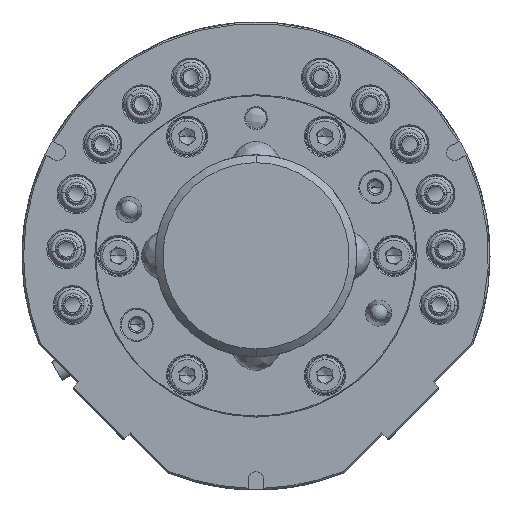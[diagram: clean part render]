
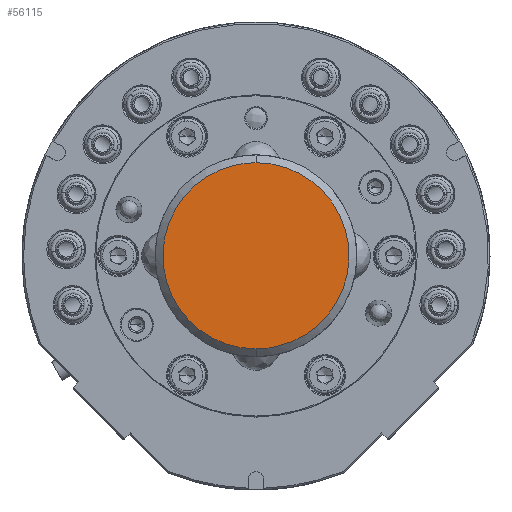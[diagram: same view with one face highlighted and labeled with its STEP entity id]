
A CAD part, top view. The second image highlights one B-rep face of the part: STEP entity #56115.
In plain terms, the highlighted planar face has unit normal (0, 0, 1).
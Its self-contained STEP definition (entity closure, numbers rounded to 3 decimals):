
#927 = CARTESIAN_POINT ( 'NONE',  ( 2.343, 17.785, 13.5 ) ) ;
#1162 = CARTESIAN_POINT ( 'NONE',  ( 17.785, 2.343, 13.5 ) ) ;
#1392 = CARTESIAN_POINT ( 'NONE',  ( 7.932, -16.089, 13.5 ) ) ;
#1664 = CARTESIAN_POINT ( 'NONE',  ( -1.172, -17.9, 13.5 ) ) ;
#1893 = CARTESIAN_POINT ( 'NONE',  ( -14.232, -10.919, 13.5 ) ) ;
#2121 = CARTESIAN_POINT ( 'NONE',  ( -14.232, 10.919, 13.5 ) ) ;
#4891 = AXIS2_PLACEMENT_3D ( 'NONE', #57257, #10642, #47086 ) ;
#6268 = CARTESIAN_POINT ( 'NONE',  ( 5.768, 16.986, 13.5 ) ) ;
#6494 = CARTESIAN_POINT ( 'NONE',  ( 17.9, -1.172, 13.5 ) ) ;
#6720 = CARTESIAN_POINT ( 'NONE',  ( 4.641, -17.327, 13.5 ) ) ;
#6949 = B_SPLINE_CURVE_WITH_KNOTS ( 'NONE', 3,
 ( #63085, #26999, #927, #37443, #6268, #42692, #11437, #47882, #16700, #53083, #22029, #58238, #27226, #63313, #32425, #1162, #37668, #6494, #42922, #11661, #48111, #16929, #53313, #22263, #58460, #27446, #63523, #32665, #1392, #37897, #6720, #43143, #11888, #48337 ),
 .UNSPECIFIED., .F., .F.,
 ( 4, 2, 2, 2, 2, 2, 2, 2, 2, 2, 2, 2, 2, 2, 2, 2, 4 ),
 ( 0.25, 0.281, 0.313, 0.344, 0.375, 0.406, 0.438, 0.469, 0.5, 0.531, 0.563, 0.594, 0.625, 0.656, 0.688, 0.719, 0.75 ),
 .UNSPECIFIED. ) ;
#7197 = CARTESIAN_POINT ( 'NONE',  ( -16.089, -7.932, 13.5 ) ) ;
#7432 = CARTESIAN_POINT ( 'NONE',  ( -11.829, 13.486, 13.5 ) ) ;
#10642 = DIRECTION ( 'NONE',  ( 0., 0., -1. ) ) ;
#11437 = CARTESIAN_POINT ( 'NONE',  ( 8.971, 15.534, 13.5 ) ) ;
#11661 = CARTESIAN_POINT ( 'NONE',  ( 17.327, -4.641, 13.5 ) ) ;
#11888 = CARTESIAN_POINT ( 'NONE',  ( 1.172, -17.9, 13.5 ) ) ;
#12355 = CARTESIAN_POINT ( 'NONE',  ( -17.327, -4.641, 13.5 ) ) ;
#12579 = CARTESIAN_POINT ( 'NONE',  ( -8.971, 15.534, 13.5 ) ) ;
#16700 = CARTESIAN_POINT ( 'NONE',  ( 11.829, 13.486, 13.5 ) ) ;
#16929 = CARTESIAN_POINT ( 'NONE',  ( 16.089, -7.932, 13.5 ) ) ;
#16993 = VERTEX_POINT ( 'NONE', #27776 ) ;
#17413 = CARTESIAN_POINT ( 'NONE',  ( -4.641, -17.327, 13.5 ) ) ;
#17651 = CARTESIAN_POINT ( 'NONE',  ( -17.9, -1.172, 13.5 ) ) ;
#17886 = CARTESIAN_POINT ( 'NONE',  ( -5.768, 16.986, 13.5 ) ) ;
#22029 = CARTESIAN_POINT ( 'NONE',  ( 14.232, 10.919, 13.5 ) ) ;
#22263 = CARTESIAN_POINT ( 'NONE',  ( 14.232, -10.919, 13.5 ) ) ;
#22742 = CARTESIAN_POINT ( 'NONE',  ( -7.932, -16.089, 13.5 ) ) ;
#22967 = CARTESIAN_POINT ( 'NONE',  ( -17.785, 2.343, 13.5 ) ) ;
#23129 = EDGE_CURVE ( 'NONE', #54497, #16993, #6949, .T. ) ;
#23187 = CARTESIAN_POINT ( 'NONE',  ( -2.343, 17.785, 13.5 ) ) ;
#26079 = B_SPLINE_CURVE_WITH_KNOTS ( 'NONE', 3,
 ( #63774, #1664, #48589, #17413, #53786, #22742, #58926, #27925, #63993, #33142, #1893, #38395, #7197, #43629, #12355, #48824, #17651, #54012, #22967, #59148, #28148, #64228, #33365, #2121, #38607, #7432, #43838, #12579, #49036, #17886, #54228, #23187, #59363, #28370 ),
 .UNSPECIFIED., .F., .F.,
 ( 4, 2, 2, 2, 2, 2, 2, 2, 2, 2, 2, 2, 2, 2, 2, 2, 4 ),
 ( 0.75, 0.781, 0.812, 0.844, 0.875, 0.906, 0.937, 0.969, 1., 1.031, 1.063, 1.094, 1.125, 1.156, 1.188, 1.219, 1.25 ),
 .UNSPECIFIED. ) ;
#26214 = PLANE ( 'NONE',  #4891 ) ;
#26999 = CARTESIAN_POINT ( 'NONE',  ( 1.172, 17.9, 13.5 ) ) ;
#27226 = CARTESIAN_POINT ( 'NONE',  ( 16.089, 7.932, 13.5 ) ) ;
#27446 = CARTESIAN_POINT ( 'NONE',  ( 11.829, -13.486, 13.5 ) ) ;
#27776 = CARTESIAN_POINT ( 'NONE',  ( 0., -17.9, 13.5 ) ) ;
#27925 = CARTESIAN_POINT ( 'NONE',  ( -10.919, -14.232, 13.5 ) ) ;
#28148 = CARTESIAN_POINT ( 'NONE',  ( -16.986, 5.768, 13.5 ) ) ;
#28370 = CARTESIAN_POINT ( 'NONE',  ( 0., 17.9, 13.5 ) ) ;
#32425 = CARTESIAN_POINT ( 'NONE',  ( 17.327, 4.641, 13.5 ) ) ;
#32665 = CARTESIAN_POINT ( 'NONE',  ( 8.971, -15.534, 13.5 ) ) ;
#33142 = CARTESIAN_POINT ( 'NONE',  ( -13.486, -11.829, 13.5 ) ) ;
#33365 = CARTESIAN_POINT ( 'NONE',  ( -15.534, 8.971, 13.5 ) ) ;
#37443 = CARTESIAN_POINT ( 'NONE',  ( 4.641, 17.327, 13.5 ) ) ;
#37668 = CARTESIAN_POINT ( 'NONE',  ( 17.9, 1.172, 13.5 ) ) ;
#37897 = CARTESIAN_POINT ( 'NONE',  ( 5.768, -16.986, 13.5 ) ) ;
#38395 = CARTESIAN_POINT ( 'NONE',  ( -15.534, -8.971, 13.5 ) ) ;
#38596 = CARTESIAN_POINT ( 'NONE',  ( 0., 17.9, 13.5 ) ) ;
#38607 = CARTESIAN_POINT ( 'NONE',  ( -13.486, 11.829, 13.5 ) ) ;
#41507 = FACE_OUTER_BOUND ( 'NONE', #64185, .T. ) ;
#42692 = CARTESIAN_POINT ( 'NONE',  ( 7.932, 16.089, 13.5 ) ) ;
#42922 = CARTESIAN_POINT ( 'NONE',  ( 17.785, -2.343, 13.5 ) ) ;
#43143 = CARTESIAN_POINT ( 'NONE',  ( 2.343, -17.785, 13.5 ) ) ;
#43629 = CARTESIAN_POINT ( 'NONE',  ( -16.986, -5.768, 13.5 ) ) ;
#43838 = CARTESIAN_POINT ( 'NONE',  ( -10.919, 14.232, 13.5 ) ) ;
#47086 = DIRECTION ( 'NONE',  ( -1., 0., 0. ) ) ;
#47882 = CARTESIAN_POINT ( 'NONE',  ( 10.919, 14.232, 13.5 ) ) ;
#48111 = CARTESIAN_POINT ( 'NONE',  ( 16.986, -5.768, 13.5 ) ) ;
#48337 = CARTESIAN_POINT ( 'NONE',  ( 0., -17.9, 13.5 ) ) ;
#48589 = CARTESIAN_POINT ( 'NONE',  ( -2.343, -17.785, 13.5 ) ) ;
#48824 = CARTESIAN_POINT ( 'NONE',  ( -17.785, -2.343, 13.5 ) ) ;
#49036 = CARTESIAN_POINT ( 'NONE',  ( -7.932, 16.089, 13.5 ) ) ;
#52913 = ORIENTED_EDGE ( 'NONE', *, *, #23129, .F. ) ;
#53083 = CARTESIAN_POINT ( 'NONE',  ( 13.486, 11.829, 13.5 ) ) ;
#53313 = CARTESIAN_POINT ( 'NONE',  ( 15.534, -8.971, 13.5 ) ) ;
#53401 = EDGE_CURVE ( 'NONE', #16993, #54497, #26079, .T. ) ;
#53786 = CARTESIAN_POINT ( 'NONE',  ( -5.768, -16.986, 13.5 ) ) ;
#54012 = CARTESIAN_POINT ( 'NONE',  ( -17.9, 1.172, 13.5 ) ) ;
#54228 = CARTESIAN_POINT ( 'NONE',  ( -4.641, 17.327, 13.5 ) ) ;
#54497 = VERTEX_POINT ( 'NONE', #38596 ) ;
#56115 = ADVANCED_FACE ( 'NONE', ( #41507 ), #26214, .F. ) ;
#57257 = CARTESIAN_POINT ( 'NONE',  ( 0., 0., 13.5 ) ) ;
#58238 = CARTESIAN_POINT ( 'NONE',  ( 15.534, 8.971, 13.5 ) ) ;
#58460 = CARTESIAN_POINT ( 'NONE',  ( 13.486, -11.829, 13.5 ) ) ;
#58926 = CARTESIAN_POINT ( 'NONE',  ( -8.971, -15.534, 13.5 ) ) ;
#59148 = CARTESIAN_POINT ( 'NONE',  ( -17.327, 4.641, 13.5 ) ) ;
#59363 = CARTESIAN_POINT ( 'NONE',  ( -1.172, 17.9, 13.5 ) ) ;
#61684 = ORIENTED_EDGE ( 'NONE', *, *, #53401, .F. ) ;
#63085 = CARTESIAN_POINT ( 'NONE',  ( 0., 17.9, 13.5 ) ) ;
#63313 = CARTESIAN_POINT ( 'NONE',  ( 16.986, 5.768, 13.5 ) ) ;
#63523 = CARTESIAN_POINT ( 'NONE',  ( 10.919, -14.232, 13.5 ) ) ;
#63774 = CARTESIAN_POINT ( 'NONE',  ( 0., -17.9, 13.5 ) ) ;
#63993 = CARTESIAN_POINT ( 'NONE',  ( -11.829, -13.486, 13.5 ) ) ;
#64185 = EDGE_LOOP ( 'NONE', ( #52913, #61684 ) ) ;
#64228 = CARTESIAN_POINT ( 'NONE',  ( -16.089, 7.932, 13.5 ) ) ;
